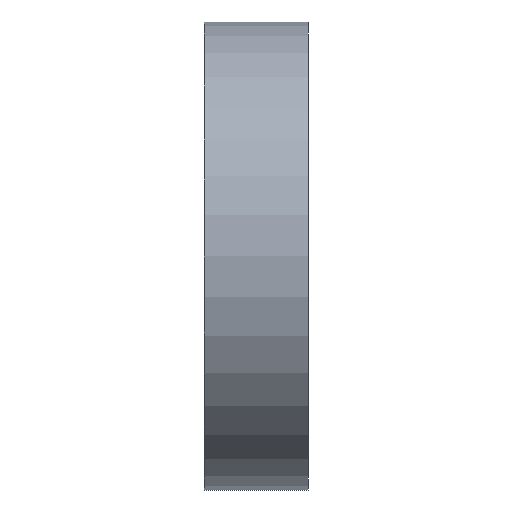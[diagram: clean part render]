
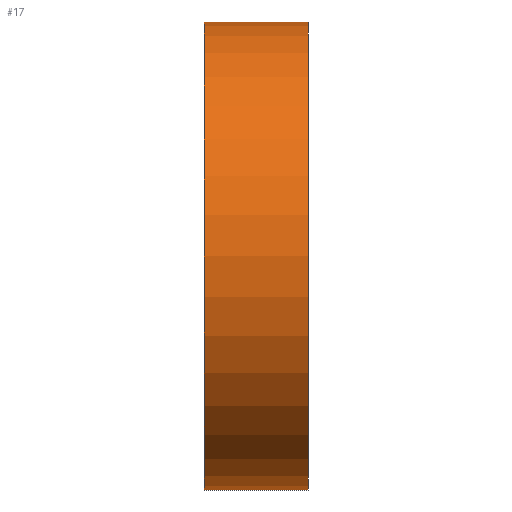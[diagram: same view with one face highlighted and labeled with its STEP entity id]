
A CAD part, front view. The second image highlights one B-rep face of the part: STEP entity #17.
In plain terms, the highlighted cylindrical face has radius 27 mm (diameter 54 mm), a full revolution.
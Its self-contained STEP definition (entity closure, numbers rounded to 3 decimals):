
#17 = ADVANCED_FACE('',(#18),#31,.T.);
#18 = FACE_BOUND('',#19,.T.);
#19 = EDGE_LOOP('',(#20,#54,#77,#104));
#20 = ORIENTED_EDGE('',*,*,#21,.F.);
#21 = EDGE_CURVE('',#22,#22,#24,.T.);
#22 = VERTEX_POINT('',#23);
#23 = CARTESIAN_POINT('',(292.,0.,-27.));
#24 = SURFACE_CURVE('',#25,(#30,#42),.PCURVE_S1.);
#25 = CIRCLE('',#26,27.);
#26 = AXIS2_PLACEMENT_3D('',#27,#28,#29);
#27 = CARTESIAN_POINT('',(292.,0.,0.));
#28 = DIRECTION('',(1.,-0.,0.));
#29 = DIRECTION('',(0.,0.,-1.));
#30 = PCURVE('',#31,#36);
#31 = CYLINDRICAL_SURFACE('',#32,27.);
#32 = AXIS2_PLACEMENT_3D('',#33,#34,#35);
#33 = CARTESIAN_POINT('',(280.,0.,0.));
#34 = DIRECTION('',(1.,0.,0.));
#35 = DIRECTION('',(0.,0.,-1.));
#36 = DEFINITIONAL_REPRESENTATION('',(#37),#41);
#37 = LINE('',#38,#39);
#38 = CARTESIAN_POINT('',(0.,12.));
#39 = VECTOR('',#40,1.);
#40 = DIRECTION('',(1.,0.));
#41 = ( GEOMETRIC_REPRESENTATION_CONTEXT(2) 
PARAMETRIC_REPRESENTATION_CONTEXT() REPRESENTATION_CONTEXT('2D SPACE',''
  ) );
#42 = PCURVE('',#43,#48);
#43 = PLANE('',#44);
#44 = AXIS2_PLACEMENT_3D('',#45,#46,#47);
#45 = CARTESIAN_POINT('',(292.,0.,0.));
#46 = DIRECTION('',(1.,0.,0.));
#47 = DIRECTION('',(0.,0.,-1.));
#48 = DEFINITIONAL_REPRESENTATION('',(#49),#53);
#49 = CIRCLE('',#50,27.);
#50 = AXIS2_PLACEMENT_2D('',#51,#52);
#51 = CARTESIAN_POINT('',(0.,0.));
#52 = DIRECTION('',(1.,0.));
#53 = ( GEOMETRIC_REPRESENTATION_CONTEXT(2) 
PARAMETRIC_REPRESENTATION_CONTEXT() REPRESENTATION_CONTEXT('2D SPACE',''
  ) );
#54 = ORIENTED_EDGE('',*,*,#55,.F.);
#55 = EDGE_CURVE('',#56,#22,#58,.T.);
#56 = VERTEX_POINT('',#57);
#57 = CARTESIAN_POINT('',(280.,0.,-27.));
#58 = SEAM_CURVE('',#59,(#63,#70),.PCURVE_S1.);
#59 = LINE('',#60,#61);
#60 = CARTESIAN_POINT('',(280.,0.,-27.));
#61 = VECTOR('',#62,1.);
#62 = DIRECTION('',(1.,0.,0.));
#63 = PCURVE('',#31,#64);
#64 = DEFINITIONAL_REPRESENTATION('',(#65),#69);
#65 = LINE('',#66,#67);
#66 = CARTESIAN_POINT('',(6.283,-0.));
#67 = VECTOR('',#68,1.);
#68 = DIRECTION('',(0.,1.));
#69 = ( GEOMETRIC_REPRESENTATION_CONTEXT(2) 
PARAMETRIC_REPRESENTATION_CONTEXT() REPRESENTATION_CONTEXT('2D SPACE',''
  ) );
#70 = PCURVE('',#31,#71);
#71 = DEFINITIONAL_REPRESENTATION('',(#72),#76);
#72 = LINE('',#73,#74);
#73 = CARTESIAN_POINT('',(0.,-0.));
#74 = VECTOR('',#75,1.);
#75 = DIRECTION('',(0.,1.));
#76 = ( GEOMETRIC_REPRESENTATION_CONTEXT(2) 
PARAMETRIC_REPRESENTATION_CONTEXT() REPRESENTATION_CONTEXT('2D SPACE',''
  ) );
#77 = ORIENTED_EDGE('',*,*,#78,.T.);
#78 = EDGE_CURVE('',#56,#56,#79,.T.);
#79 = SURFACE_CURVE('',#80,(#85,#92),.PCURVE_S1.);
#80 = CIRCLE('',#81,27.);
#81 = AXIS2_PLACEMENT_3D('',#82,#83,#84);
#82 = CARTESIAN_POINT('',(280.,0.,0.));
#83 = DIRECTION('',(1.,-0.,0.));
#84 = DIRECTION('',(0.,0.,-1.));
#85 = PCURVE('',#31,#86);
#86 = DEFINITIONAL_REPRESENTATION('',(#87),#91);
#87 = LINE('',#88,#89);
#88 = CARTESIAN_POINT('',(0.,0.));
#89 = VECTOR('',#90,1.);
#90 = DIRECTION('',(1.,0.));
#91 = ( GEOMETRIC_REPRESENTATION_CONTEXT(2) 
PARAMETRIC_REPRESENTATION_CONTEXT() REPRESENTATION_CONTEXT('2D SPACE',''
  ) );
#92 = PCURVE('',#93,#98);
#93 = PLANE('',#94);
#94 = AXIS2_PLACEMENT_3D('',#95,#96,#97);
#95 = CARTESIAN_POINT('',(280.,0.,0.));
#96 = DIRECTION('',(1.,0.,0.));
#97 = DIRECTION('',(0.,0.,-1.));
#98 = DEFINITIONAL_REPRESENTATION('',(#99),#103);
#99 = CIRCLE('',#100,27.);
#100 = AXIS2_PLACEMENT_2D('',#101,#102);
#101 = CARTESIAN_POINT('',(0.,0.));
#102 = DIRECTION('',(1.,0.));
#103 = ( GEOMETRIC_REPRESENTATION_CONTEXT(2) 
PARAMETRIC_REPRESENTATION_CONTEXT() REPRESENTATION_CONTEXT('2D SPACE',''
  ) );
#104 = ORIENTED_EDGE('',*,*,#55,.T.);
